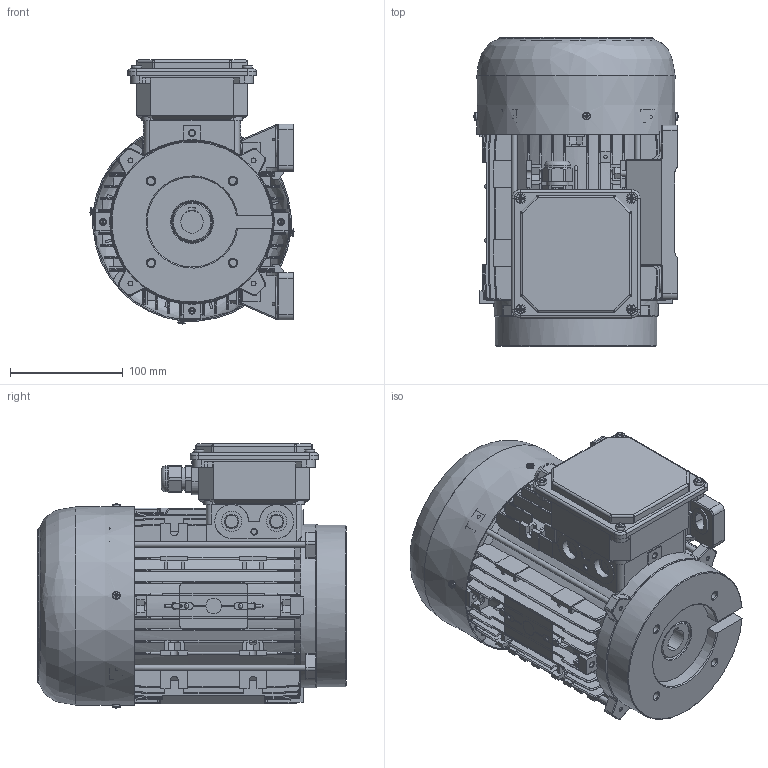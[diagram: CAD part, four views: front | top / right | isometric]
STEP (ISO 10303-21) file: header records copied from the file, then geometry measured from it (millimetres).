
FILE_DESCRIPTION(/* description */ (''),/* implementation_level */ '2;1');
FILE_NAME(/* name */ 'W:\Tecnico\Archivio\Dimensioni Pompe\3D Export\Motori\MRE90L-05DX.stp',/* time_stamp */ '2021-04-07T12:26:31+02:00',/* author */ ('marcop'),/* organization */ (''),/* preprocessor_version */ 'ST-DEVELOPER v17',/* originating_system */ 'Autodesk Inventor 2018',/* authorisation */ '');
FILE_SCHEMA (('AUTOMOTIVE_DESIGN { 1 0 10303 214 3 1 1 }'));
Products named in the file (1): 1182 M90L att.80 (ME90L 05 DX)_Shrinkwrap_3
Bounding box: 181.4 x 274.5 x 234.7 mm (x, y, z)
Volume: 1766253.7 mm3; surface area: 827285.5 mm2
Topology: 2 solids, 2 shells, 3804 faces, 10807 edges, 7032 vertices
Faces by surface type: plane 2217, cylinder 791, bspline 382, cone 207, torus 181, sphere 26
Full cylindrical faces by diameter (mm): 2.3 x7, 3 x12, 3.1 x1, 3.2 x4, 3.5 x4, 4.2 x8, 4.917 x13, 5 x5, 5.8 x4, 6 x4, 6.5 x2, 6.647 x4, 6.8 x4, 7 x4, 8 x1, 10 x4, 12 x1, 14 x1, 15 x2, 17 x1, 18 x4, 18.5 x1, 19.95 x1, 20 x3, 23 x2, 24.2 x1, 25 x2, 26.5 x1, 29.075 x2, 29.6 x1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
Entity records: 163445 total; most frequent: CARTESIAN_POINT 61151, ORIENTED_EDGE 21546, DIRECTION 19884, EDGE_CURVE 10773, VERTEX_POINT 7032, AXIS2_PLACEMENT_3D 6836, LINE 6212, VECTOR 6212
